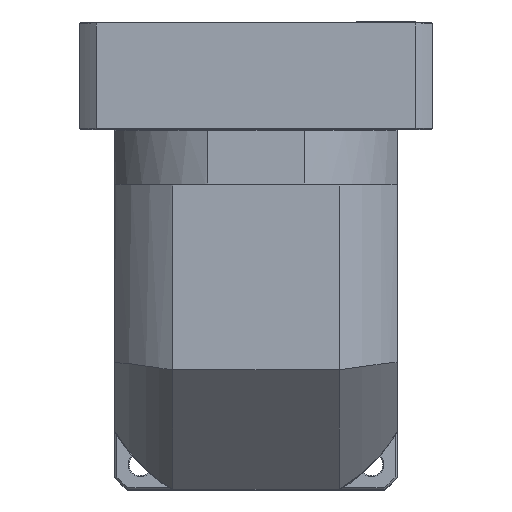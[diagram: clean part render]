
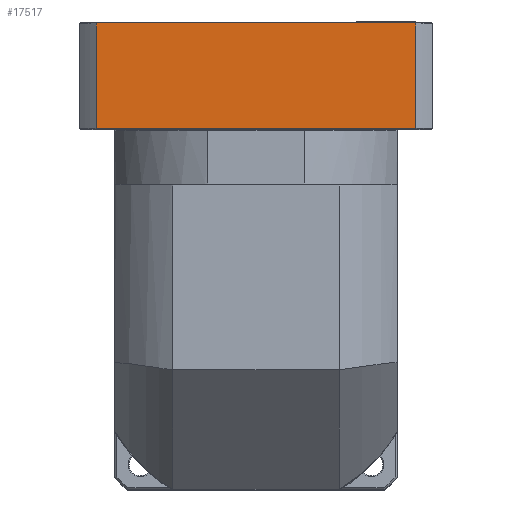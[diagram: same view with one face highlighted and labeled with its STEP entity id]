
A CAD part, top view. The second image highlights one B-rep face of the part: STEP entity #17517.
In plain terms, the highlighted planar face has unit normal (0, 0, 1).
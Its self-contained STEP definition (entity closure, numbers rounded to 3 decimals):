
#4606 = CARTESIAN_POINT ( 'NONE',  ( -165.605, 175.351, 63.011 ) ) ;
#11044 = CARTESIAN_POINT ( 'NONE',  ( 3.887, 175.351, 63.011 ) ) ;
#15909 = LINE ( 'NONE', #11044, #73221 ) ;
#16112 = EDGE_CURVE ( 'NONE', #115689, #50062, #15909, .T. ) ;
#17517 = ADVANCED_FACE ( 'NONE', ( #45640 ), #48009, .F. ) ;
#29800 = LINE ( 'NONE', #139917, #137886 ) ;
#30731 = VERTEX_POINT ( 'NONE', #103508 ) ;
#41632 = DIRECTION ( 'NONE',  ( 1., 0., 0. ) ) ;
#45640 = FACE_OUTER_BOUND ( 'NONE', #95299, .T. ) ;
#48009 = PLANE ( 'NONE',  #64949 ) ;
#48690 = DIRECTION ( 'NONE',  ( 0., -1., 0. ) ) ;
#50062 = VERTEX_POINT ( 'NONE', #131747 ) ;
#51525 = LINE ( 'NONE', #114774, #53181 ) ;
#53181 = VECTOR ( 'NONE', #48690, 1000. ) ;
#54782 = ORIENTED_EDGE ( 'NONE', *, *, #102386, .F. ) ;
#58063 = VERTEX_POINT ( 'NONE', #93687 ) ;
#64349 = LINE ( 'NONE', #136256, #72895 ) ;
#64949 = AXIS2_PLACEMENT_3D ( 'NONE', #134865, #70170, #92332 ) ;
#68332 = EDGE_CURVE ( 'NONE', #115689, #58063, #29800, .T. ) ;
#70170 = DIRECTION ( 'NONE',  ( 0., 0., -1. ) ) ;
#72895 = VECTOR ( 'NONE', #103649, 1000. ) ;
#73221 = VECTOR ( 'NONE', #41632, 1000. ) ;
#79651 = ORIENTED_EDGE ( 'NONE', *, *, #84249, .F. ) ;
#80941 = ORIENTED_EDGE ( 'NONE', *, *, #16112, .T. ) ;
#84249 = EDGE_CURVE ( 'NONE', #58063, #30731, #64349, .T. ) ;
#88273 = ORIENTED_EDGE ( 'NONE', *, *, #68332, .F. ) ;
#92332 = DIRECTION ( 'NONE',  ( 0., -1., 0. ) ) ;
#93687 = CARTESIAN_POINT ( 'NONE',  ( -165.605, 228.351, 63.011 ) ) ;
#95299 = EDGE_LOOP ( 'NONE', ( #88273, #80941, #54782, #79651 ) ) ;
#102386 = EDGE_CURVE ( 'NONE', #30731, #50062, #51525, .T. ) ;
#103508 = CARTESIAN_POINT ( 'NONE',  ( -4.62, 228.351, 63.011 ) ) ;
#103649 = DIRECTION ( 'NONE',  ( 1., 0., 0. ) ) ;
#114774 = CARTESIAN_POINT ( 'NONE',  ( -4.62, -167.955, 63.011 ) ) ;
#115689 = VERTEX_POINT ( 'NONE', #4606 ) ;
#131747 = CARTESIAN_POINT ( 'NONE',  ( -4.62, 175.351, 63.011 ) ) ;
#132839 = DIRECTION ( 'NONE',  ( 0., 1., 0. ) ) ;
#134865 = CARTESIAN_POINT ( 'NONE',  ( 3.887, 228.851, 63.011 ) ) ;
#136256 = CARTESIAN_POINT ( 'NONE',  ( 3.887, 228.351, 63.011 ) ) ;
#137886 = VECTOR ( 'NONE', #132839, 1000. ) ;
#139917 = CARTESIAN_POINT ( 'NONE',  ( -165.605, 228.851, 63.011 ) ) ;
